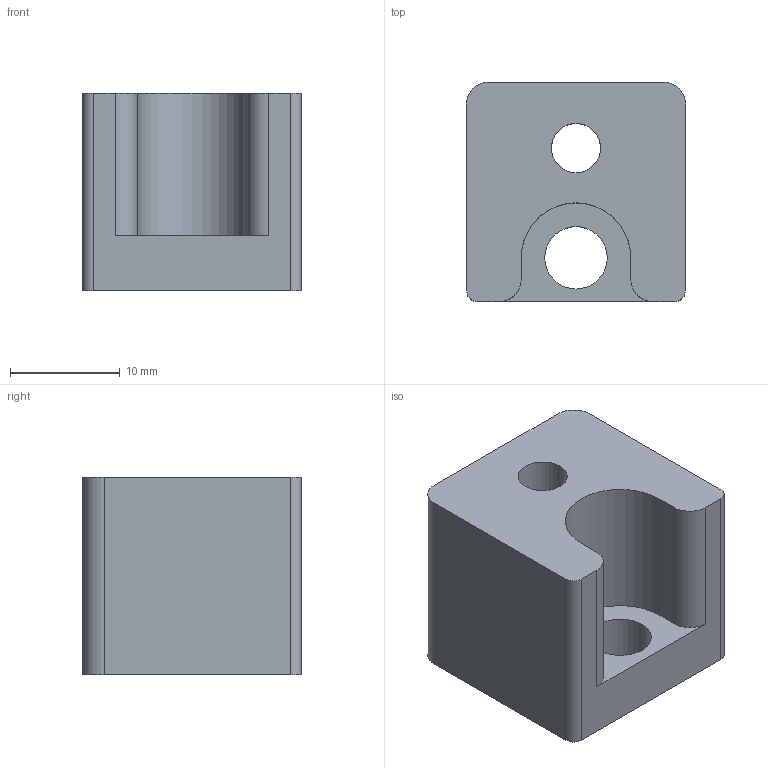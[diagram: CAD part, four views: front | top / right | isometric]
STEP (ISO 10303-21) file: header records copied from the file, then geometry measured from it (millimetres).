
FILE_DESCRIPTION(('Open CASCADE Model'),'2;1');
FILE_NAME('Open CASCADE Shape Model','2026-10-26T02:40:39',('Author'),( 'Open CASCADE'),'Open CASCADE STEP processor 7.9','build123d', 'Unknown');
FILE_SCHEMA(('AUTOMOTIVE_DESIGN { 1 0 10303 214 1 1 1 1 }'));
Length unit declared in the file: millimetre
Products named in the file (1): COMPOUND
Bounding box: 20 x 20 x 18 mm (x, y, z)
Volume: 5487.8 mm3; surface area: 2745.1 mm2
Topology: 1 solids, 1 shells, 24 faces, 63 edges, 42 vertices
Faces by surface type: plane 14, cylinder 10
Full cylindrical faces by diameter (mm): 4.5 x2, 5.7 x1
Entity records: 1612 total; most frequent: CARTESIAN_POINT 304, DIRECTION 251, LINE 149, VECTOR 149, ORIENTED_EDGE 126, PCURVE 126, DEFINITIONAL_REPRESENTATION 126, EDGE_CURVE 63
